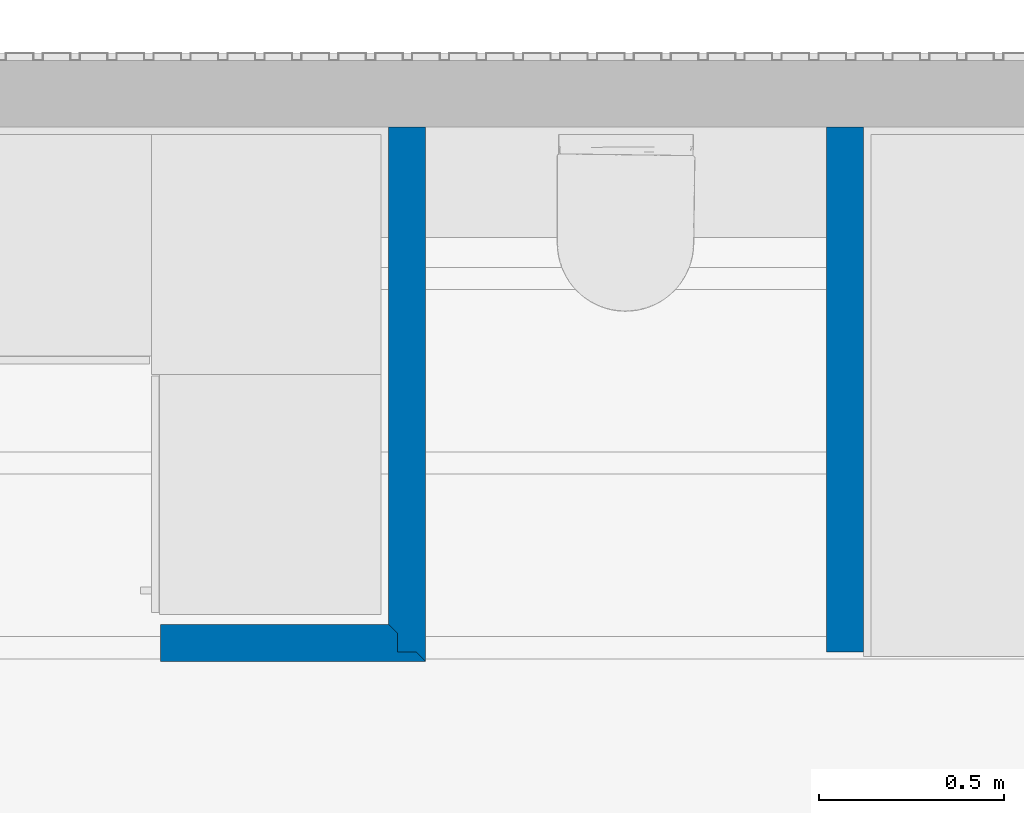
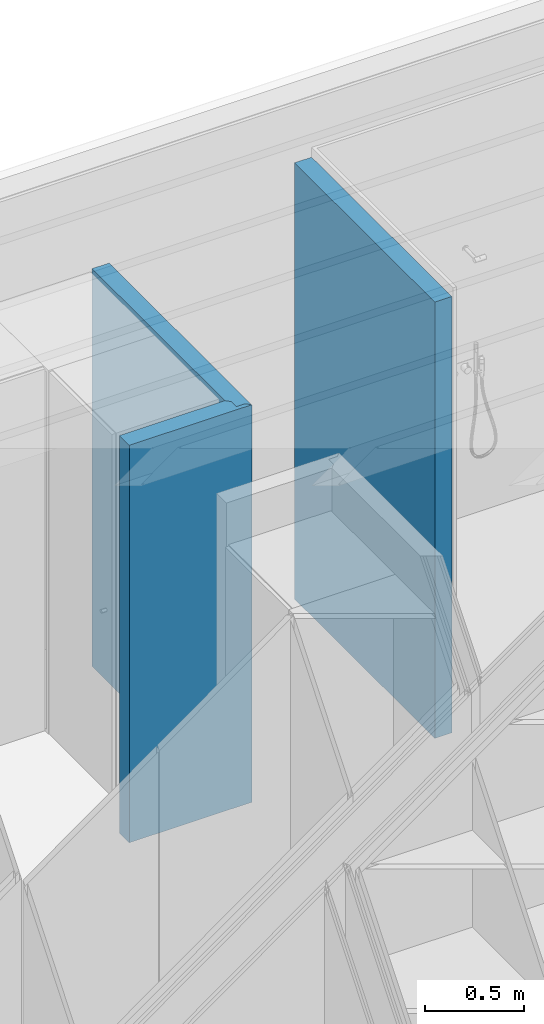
# One storey, part 14 of 28: 3 walls.
"""IFC4X3_ADD2 building model written with IfcOpenShell, lengths in metres."""

from ifc_helpers import new_model, si_unit, direction, frame, origin_with_axes, origin_2d_with_axis, place, context, subcontext, project, spatial, polyline, rectangle, outline, extrude, source, transform, mapped, type_object, type_shapes, element, save


model = new_model("IFC4X3_ADD2")

# Units and contexts
model_context = context("Model", 3, precision=1e-05, world=origin_with_axes(), true_north=direction((0.0, 1.0)))
body_context = subcontext(model_context, "Body", "Model", "MODEL_VIEW")
ifc_project = project(units=[si_unit("LENGTHUNIT", "METRE"), si_unit("AREAUNIT", "SQUARE_METRE"), si_unit("VOLUMEUNIT", "CUBIC_METRE"), si_unit("PLANEANGLEUNIT", "RADIAN"), si_unit("TIMEUNIT", "SECOND"), si_unit("MASSUNIT", "GRAM")], contexts=[model_context])

# Site, building, storey
site_placement = place(None, origin_with_axes())
site = spatial("IfcSite", under=ifc_project, at=site_placement, Name="Site", CompositionType="ELEMENT")
building_placement = place(site_placement, origin_with_axes())
building = spatial("IfcBuilding", under=site, at=building_placement, Name="Default Building")
storey_placement = place(building_placement, frame((0.0, 0.0, -0.08), z_axis=(0.0, 0.0, 1.0), x_axis=(1.0, 0.0, 0.0)))
storey = spatial("IfcBuildingStorey", under=building, at=storey_placement, Name="Gruendung", Elevation=-0.08)

# Walls
wall_type_1 = type_object("IfcWallType", Name="Gipsständerwand 10 cm", PredefinedType="NOTDEFINED")
shared_shape_1 = source(origin_with_axes(), body_context, "Body", "SweptSolid", [
    extrude(outline(polyline([(0.7264585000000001, 0.006250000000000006), (0.7139585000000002, -0.006249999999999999), (-0.7202084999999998, -0.006249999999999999), (-0.7202084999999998, 0.006250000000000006), (0.7264585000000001, 0.006250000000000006)])), frame((0.8102084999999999, 0.04375, 0.0), z_axis=(0.0, 0.0, 1.0), x_axis=(1.0, 0.0, 0.0)), (0.0, 0.0, 1.0), 2.46),
    extrude(outline(polyline([(0.7202085, 0.006249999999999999), (0.7077085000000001, -0.006249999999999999), (-0.7139584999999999, -0.006249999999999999), (-0.7139584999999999, 0.006249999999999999), (0.7202085, 0.006249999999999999)])), frame((0.8039585, 0.03125, 0.0), z_axis=(0.0, 0.0, 1.0), x_axis=(1.0, 0.0, 0.0)), (0.0, 0.0, 1.0), 2.46),
    extrude(rectangle(XDim=1.421667, YDim=0.049999, at=origin_2d_with_axis()), frame((0.8008335, 4.999999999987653e-07, 0.0), z_axis=(0.0, 0.0, 1.0), x_axis=(1.0, 0.0, 0.0)), (0.0, 0.0, 1.0), 2.46),
    extrude(outline(polyline([(0.6889584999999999, 0.006249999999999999), (0.6764585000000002, -0.006250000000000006), (-0.6827084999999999, -0.006250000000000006), (-0.6827084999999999, 0.006249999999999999), (0.6889584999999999, 0.006249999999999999)])), frame((0.7727084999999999, -0.031249, 0.0), z_axis=(0.0, 0.0, 1.0), x_axis=(1.0, 0.0, 0.0)), (0.0, 0.0, 1.0), 2.46),
    extrude(outline(polyline([(0.6827085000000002, 0.006249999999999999), (0.6702085, -0.006249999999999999), (-0.6764584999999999, -0.006249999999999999), (-0.6764584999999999, 0.006249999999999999), (0.6827085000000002, 0.006249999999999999)])), frame((0.7664584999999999, -0.043749, 0.0), z_axis=(0.0, 0.0, 1.0), x_axis=(1.0, 0.0, 0.0)), (0.0, 0.0, 1.0), 2.46),
])
type_shapes(wall_type_1, [shared_shape_1])
wall_1_placement = place(storey_placement, frame((21.98556372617, 21.99, -0.08), z_axis=(0.0, 0.0, 1.0), x_axis=(0.0, -1.0, 0.0)))
element("IfcWall", 1, at=wall_1_placement, inside=storey, type_object=wall_type_1, Name="Gipsständerwand 10 cm", ObjectType="Gipsständerwand 10 cm", context=body_context, shape_type="MappedRepresentation", body=[
    mapped(shared_shape_1, transform((0.0, 0.0, 0.0))),
])
wall_type_2 = type_object("IfcWallType", Name="Gipsständerwand 10 cm7", PredefinedType="NOTDEFINED")
shared_shape_2 = source(origin_with_axes(), body_context, "Body", "SweptSolid", [
    extrude(outline(polyline([(-0.7078750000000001, -0.05), (-0.7078750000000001, -0.0375), (0.7016249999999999, -0.0375), (0.7016249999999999, 0.0375), (-0.7078750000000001, 0.0375), (-0.7078750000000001, 0.05), (0.7141249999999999, 0.05), (0.7141249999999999, -0.05), (-0.7078750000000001, -0.05)])), frame((0.7978750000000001, 0.0, 0.0), z_axis=(0.0, 0.0, 1.0), x_axis=(1.0, 0.0, 0.0)), (0.0, 0.0, 1.0), 2.7),
    extrude(outline(polyline([(-0.701625, -0.025), (0.6953750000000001, -0.025), (0.6953750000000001, 0.025), (-0.701625, 0.025), (-0.701625, 0.0375), (0.707875, 0.0375), (0.707875, -0.0375), (-0.701625, -0.0375), (-0.701625, -0.025)])), frame((0.791625, 0.0, 0.0), z_axis=(0.0, 0.0, 1.0), x_axis=(1.0, 0.0, 0.0)), (0.0, 0.0, 1.0), 2.7),
    extrude(rectangle(XDim=1.397, YDim=0.05, at=origin_2d_with_axis()), frame((0.7885, 0.0, 0.0), z_axis=(0.0, 0.0, 1.0), x_axis=(1.0, 0.0, 0.0)), (0.0, 0.0, 1.0), 2.7),
])
type_shapes(wall_type_2, [shared_shape_2])
wall_2_placement = place(storey_placement, frame((23.17117623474, 21.99, -0.08), z_axis=(0.0, 0.0, 1.0), x_axis=(0.0, -1.0, 0.0)))
element("IfcWall", 2, at=wall_2_placement, inside=storey, type_object=wall_type_2, Name="Gipsständerwand 10 cm", ObjectType="Gipsständerwand 10 cm", context=body_context, shape_type="MappedRepresentation", body=[
    mapped(shared_shape_2, transform((0.0, 0.0, 0.0))),
])
wall_type_3 = type_object("IfcWallType", Name="Gipsständerwand 10 cm15", PredefinedType="NOTDEFINED")
shared_shape_3 = source(origin_with_axes(), body_context, "Body", "SweptSolid", [
    extrude(outline(polyline([(0.2928750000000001, 0.0375), (-0.324125, 0.0375), (-0.324125, -0.0375), (0.367875, -0.0375), (0.380375, -0.05), (-0.336625, -0.05), (-0.336625, 0.05), (0.280375, 0.05), (0.2928750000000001, 0.0375)])), frame((0.336625, 0.0, 0.0), z_axis=(0.0, 0.0, 1.0), x_axis=(1.0, 0.0, 0.0)), (0.0, 0.0, 1.0), 2.46),
    extrude(outline(polyline([(0.2991249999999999, 0.025), (-0.3178750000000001, 0.025), (-0.3178750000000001, -0.025), (0.349125, -0.025), (0.3616249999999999, -0.0375), (-0.3303750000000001, -0.0375), (-0.3303750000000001, 0.0375), (0.286625, 0.0375), (0.2991249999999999, 0.025)])), frame((0.3428750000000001, 0.0, 0.0), z_axis=(0.0, 0.0, 1.0), x_axis=(1.0, 0.0, 0.0)), (0.0, 0.0, 1.0), 2.46),
    extrude(rectangle(XDim=0.617, YDim=0.05, at=origin_2d_with_axis()), frame((0.3335, 0.0, 0.0), z_axis=(0.0, 0.0, 1.0), x_axis=(1.0, 0.0, 0.0)), (0.0, 0.0, 1.0), 2.46),
])
type_shapes(wall_type_3, [shared_shape_3])
wall_3_placement = place(storey_placement, frame((21.31856372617, 20.50333333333, -0.08), z_axis=(0.0, 0.0, 1.0), x_axis=(1.0, 0.0, 0.0)))
element("IfcWall", 3, at=wall_3_placement, inside=storey, type_object=wall_type_3, Name="Gipsständerwand 10 cm", ObjectType="Gipsständerwand 10 cm", context=body_context, shape_type="MappedRepresentation", body=[
    mapped(shared_shape_3, transform((0.0, 0.0, 0.0))),
])

save(model, "model.ifc")
